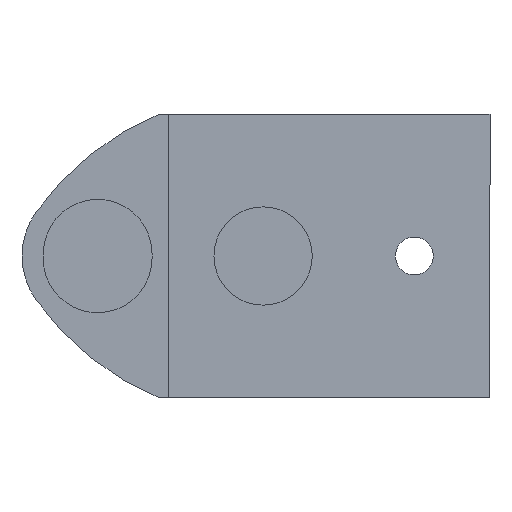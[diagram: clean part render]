
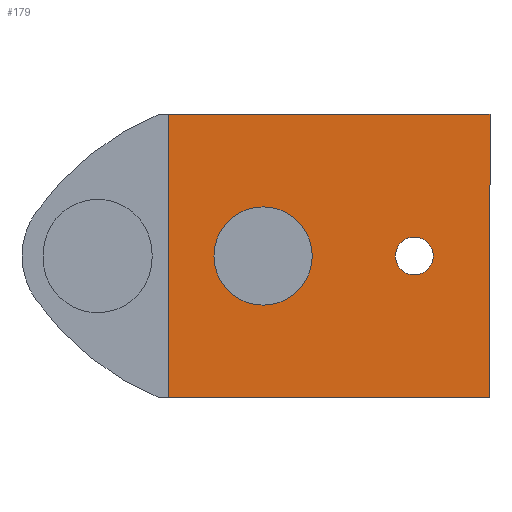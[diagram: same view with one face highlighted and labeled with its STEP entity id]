
A CAD part, front view. The second image highlights one B-rep face of the part: STEP entity #179.
In plain terms, the highlighted planar face has unit normal (0, -1, 0).
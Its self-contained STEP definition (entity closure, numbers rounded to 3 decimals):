
#179 = ADVANCED_FACE ( 'NONE', ( #781, #791, #778 ), #1020, .F. ) ;
#197 = VERTEX_POINT ( 'NONE', #1045 ) ;
#204 = VERTEX_POINT ( 'NONE', #1038 ) ;
#219 = VERTEX_POINT ( 'NONE', #1021 ) ;
#226 = VERTEX_POINT ( 'NONE', #1012 ) ;
#231 = VERTEX_POINT ( 'NONE', #1009 ) ;
#233 = VERTEX_POINT ( 'NONE', #1007 ) ;
#251 = VERTEX_POINT ( 'NONE', #993 ) ;
#274 = VERTEX_POINT ( 'NONE', #987 ) ;
#315 = DIRECTION ( 'NONE',  ( 0., 0., 1. ) ) ;
#316 = CARTESIAN_POINT ( 'NONE',  ( -10., 0., 15. ) ) ;
#319 = DIRECTION ( 'NONE',  ( 1., 0., 0. ) ) ;
#320 = DIRECTION ( 'NONE',  ( 0., -1., 0. ) ) ;
#330 = CARTESIAN_POINT ( 'NONE',  ( 16., 0., 0. ) ) ;
#345 = DIRECTION ( 'NONE',  ( 1., 0., 0. ) ) ;
#346 = DIRECTION ( 'NONE',  ( 0., 1., 0. ) ) ;
#358 = CARTESIAN_POINT ( 'NONE',  ( 0., 0., 0. ) ) ;
#360 = DIRECTION ( 'NONE',  ( 1., 0., 0. ) ) ;
#365 = CARTESIAN_POINT ( 'NONE',  ( 24., 0., 15. ) ) ;
#366 = DIRECTION ( 'NONE',  ( 1., 0., 0. ) ) ;
#367 = DIRECTION ( 'NONE',  ( 0., -1., 0. ) ) ;
#376 = CARTESIAN_POINT ( 'NONE',  ( 16., 0., 0. ) ) ;
#397 = DIRECTION ( 'NONE',  ( 1., 0., 0. ) ) ;
#398 = DIRECTION ( 'NONE',  ( 0., 1., 0. ) ) ;
#422 = CARTESIAN_POINT ( 'NONE',  ( 0., 0., 0. ) ) ;
#436 = AXIS2_PLACEMENT_3D ( 'NONE', #376, #367, #366 ) ;
#450 = EDGE_CURVE ( 'NONE', #274, #233, #741, .T. ) ;
#465 = EDGE_CURVE ( 'NONE', #197, #226, #722, .T. ) ;
#473 = AXIS2_PLACEMENT_3D ( 'NONE', #422, #398, #397 ) ;
#478 = AXIS2_PLACEMENT_3D ( 'NONE', #358, #346, #345 ) ;
#504 = AXIS2_PLACEMENT_3D ( 'NONE', #330, #320, #319 ) ;
#515 = EDGE_CURVE ( 'NONE', #204, #231, #681, .T. ) ;
#519 = EDGE_CURVE ( 'NONE', #219, #251, #684, .T. ) ;
#525 = AXIS2_PLACEMENT_3D ( 'NONE', #1019, #1014, #1013 ) ;
#529 = EDGE_CURVE ( 'NONE', #226, #197, #666, .T. ) ;
#546 = EDGE_CURVE ( 'NONE', #231, #204, #649, .T. ) ;
#547 = EDGE_CURVE ( 'NONE', #233, #219, #653, .T. ) ;
#578 = EDGE_CURVE ( 'NONE', #251, #274, #628, .T. ) ;
#596 = DIRECTION ( 'NONE',  ( 0., 0., -1. ) ) ;
#598 = CARTESIAN_POINT ( 'NONE',  ( 24., 0., -15. ) ) ;
#628 = LINE ( 'NONE', #598, #638 ) ;
#638 = VECTOR ( 'NONE', #596, 1000. ) ;
#649 = CIRCLE ( 'NONE', #504, 2. ) ;
#652 = VECTOR ( 'NONE', #315, 1000. ) ;
#653 = LINE ( 'NONE', #316, #652 ) ;
#666 = CIRCLE ( 'NONE', #478, 5.2 ) ;
#680 = VECTOR ( 'NONE', #360, 1000. ) ;
#681 = CIRCLE ( 'NONE', #436, 2. ) ;
#684 = LINE ( 'NONE', #365, #680 ) ;
#722 = CIRCLE ( 'NONE', #473, 5.2 ) ;
#741 = LINE ( 'NONE', #961, #743 ) ;
#743 = VECTOR ( 'NONE', #951, 1000. ) ;
#778 = FACE_BOUND ( 'NONE', #875, .T. ) ;
#781 = FACE_OUTER_BOUND ( 'NONE', #878, .T. ) ;
#791 = FACE_BOUND ( 'NONE', #884, .T. ) ;
#851 = ORIENTED_EDGE ( 'NONE', *, *, #519, .F. ) ;
#852 = ORIENTED_EDGE ( 'NONE', *, *, #547, .F. ) ;
#853 = ORIENTED_EDGE ( 'NONE', *, *, #450, .F. ) ;
#854 = ORIENTED_EDGE ( 'NONE', *, *, #578, .F. ) ;
#855 = ORIENTED_EDGE ( 'NONE', *, *, #515, .F. ) ;
#856 = ORIENTED_EDGE ( 'NONE', *, *, #546, .F. ) ;
#857 = ORIENTED_EDGE ( 'NONE', *, *, #529, .T. ) ;
#858 = ORIENTED_EDGE ( 'NONE', *, *, #465, .T. ) ;
#875 = EDGE_LOOP ( 'NONE', ( #857, #858 ) ) ;
#878 = EDGE_LOOP ( 'NONE', ( #851, #852, #853, #854 ) ) ;
#884 = EDGE_LOOP ( 'NONE', ( #855, #856 ) ) ;
#951 = DIRECTION ( 'NONE',  ( -1., 0., 0. ) ) ;
#961 = CARTESIAN_POINT ( 'NONE',  ( -10., 0., -15. ) ) ;
#987 = CARTESIAN_POINT ( 'NONE',  ( 24., 0., -15. ) ) ;
#993 = CARTESIAN_POINT ( 'NONE',  ( 24., 0., 15. ) ) ;
#1007 = CARTESIAN_POINT ( 'NONE',  ( -10., 0., -15. ) ) ;
#1009 = CARTESIAN_POINT ( 'NONE',  ( 14., 0., 0. ) ) ;
#1012 = CARTESIAN_POINT ( 'NONE',  ( 5.2, 0., 0. ) ) ;
#1013 = DIRECTION ( 'NONE',  ( 1., 0., 0. ) ) ;
#1014 = DIRECTION ( 'NONE',  ( 0., 1., 0. ) ) ;
#1019 = CARTESIAN_POINT ( 'NONE',  ( -10., 0., 15. ) ) ;
#1020 = PLANE ( 'NONE',  #525 ) ;
#1021 = CARTESIAN_POINT ( 'NONE',  ( -10., 0., 15. ) ) ;
#1038 = CARTESIAN_POINT ( 'NONE',  ( 18., 0., 0. ) ) ;
#1045 = CARTESIAN_POINT ( 'NONE',  ( -5.2, 0., 0. ) ) ;
